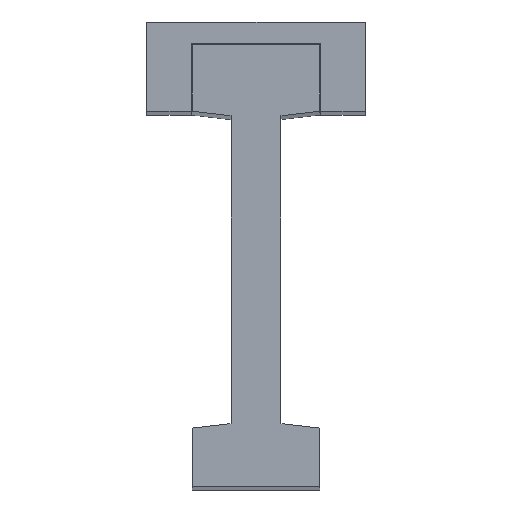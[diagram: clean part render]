
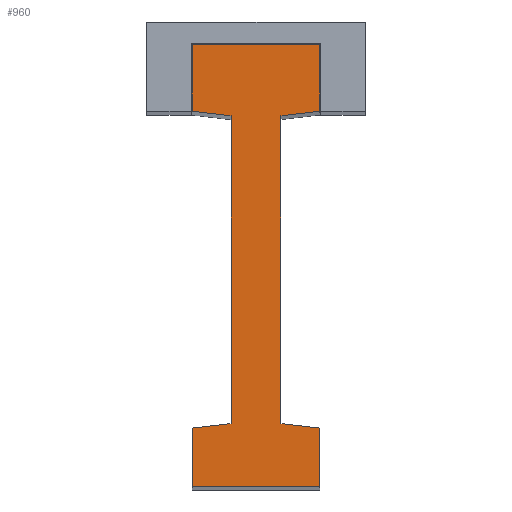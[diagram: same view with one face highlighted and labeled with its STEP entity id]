
A CAD part, top view. The second image highlights one B-rep face of the part: STEP entity #960.
In plain terms, the highlighted planar face has unit normal (0, 0, 1).
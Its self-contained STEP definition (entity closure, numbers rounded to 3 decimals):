
#27 = DIRECTION ( 'NONE',  ( -1., 0., 0. ) ) ;
#90 = CARTESIAN_POINT ( 'NONE',  ( 66.6, 231.204, 785.517 ) ) ;
#154 = VECTOR ( 'NONE', #2825, 1000. ) ;
#358 = AXIS2_PLACEMENT_3D ( 'NONE', #4140, #664, #2979 ) ;
#391 = ORIENTED_EDGE ( 'NONE', *, *, #488, .T. ) ;
#488 = EDGE_CURVE ( 'NONE', #4231, #2779, #1883, .T. ) ;
#513 = ORIENTED_EDGE ( 'NONE', *, *, #2667, .T. ) ;
#567 = VERTEX_POINT ( 'NONE', #1797 ) ;
#601 = EDGE_CURVE ( 'NONE', #3516, #4248, #1031, .T. ) ;
#603 = CARTESIAN_POINT ( 'NONE',  ( 66.6, 298.704, 785.517 ) ) ;
#664 = DIRECTION ( 'NONE',  ( 0., 0., 1. ) ) ;
#690 = DIRECTION ( 'NONE',  ( 0., -1., 0. ) ) ;
#691 = CARTESIAN_POINT ( 'NONE',  ( 57.95, 316.204, 785.517 ) ) ;
#720 = CARTESIAN_POINT ( 'NONE',  ( 86.45, 316.204, 785.517 ) ) ;
#846 = DIRECTION ( 'NONE',  ( -0.993, -0.115, 0. ) ) ;
#869 = LINE ( 'NONE', #3902, #2552 ) ;
#914 = LINE ( 'NONE', #4031, #2315 ) ;
#932 = VERTEX_POINT ( 'NONE', #3504 ) ;
#947 = CARTESIAN_POINT ( 'NONE',  ( 57.95, 301.204, 785.517 ) ) ;
#960 = ADVANCED_FACE ( 'NONE', ( #2657 ), #1831, .T. ) ;
#964 = VERTEX_POINT ( 'NONE', #691 ) ;
#1031 = LINE ( 'NONE', #2584, #1639 ) ;
#1049 = CARTESIAN_POINT ( 'NONE',  ( 57.95, 316.204, 785.517 ) ) ;
#1164 = VECTOR ( 'NONE', #1677, 1000. ) ;
#1206 = ORIENTED_EDGE ( 'NONE', *, *, #601, .T. ) ;
#1221 = LINE ( 'NONE', #1979, #154 ) ;
#1225 = LINE ( 'NONE', #4391, #1164 ) ;
#1277 = VECTOR ( 'NONE', #4955, 1000. ) ;
#1344 = LINE ( 'NONE', #603, #3107 ) ;
#1581 = CARTESIAN_POINT ( 'NONE',  ( 86.45, 217.204, 785.517 ) ) ;
#1639 = VECTOR ( 'NONE', #2101, 1000. ) ;
#1677 = DIRECTION ( 'NONE',  ( 0.993, 0.115, 0. ) ) ;
#1725 = ORIENTED_EDGE ( 'NONE', *, *, #1808, .T. ) ;
#1797 = CARTESIAN_POINT ( 'NONE',  ( 86.45, 230.204, 785.517 ) ) ;
#1808 = EDGE_CURVE ( 'NONE', #4394, #4588, #3986, .T. ) ;
#1831 = PLANE ( 'NONE',  #358 ) ;
#1880 = CARTESIAN_POINT ( 'NONE',  ( 86.45, 301.204, 785.517 ) ) ;
#1883 = LINE ( 'NONE', #3077, #1277 ) ;
#1891 = VECTOR ( 'NONE', #27, 1000. ) ;
#1979 = CARTESIAN_POINT ( 'NONE',  ( 57.95, 301.204, 785.517 ) ) ;
#1998 = ORIENTED_EDGE ( 'NONE', *, *, #4117, .F. ) ;
#2004 = VERTEX_POINT ( 'NONE', #4019 ) ;
#2101 = DIRECTION ( 'NONE',  ( 0., 1., 0. ) ) ;
#2148 = VECTOR ( 'NONE', #4294, 1000. ) ;
#2171 = ORIENTED_EDGE ( 'NONE', *, *, #3406, .T. ) ;
#2180 = CARTESIAN_POINT ( 'NONE',  ( 57.95, 217.204, 785.517 ) ) ;
#2315 = VECTOR ( 'NONE', #3956, 1000. ) ;
#2332 = CARTESIAN_POINT ( 'NONE',  ( 86.45, 217.204, 785.517 ) ) ;
#2373 = LINE ( 'NONE', #2699, #1891 ) ;
#2436 = ORIENTED_EDGE ( 'NONE', *, *, #3490, .T. ) ;
#2529 = CARTESIAN_POINT ( 'NONE',  ( 66.6, 300.204, 785.517 ) ) ;
#2541 = EDGE_CURVE ( 'NONE', #3331, #4394, #1344, .T. ) ;
#2552 = VECTOR ( 'NONE', #3415, 1000. ) ;
#2584 = CARTESIAN_POINT ( 'NONE',  ( 86.45, 301.204, 785.517 ) ) ;
#2657 = FACE_OUTER_BOUND ( 'NONE', #4841, .T. ) ;
#2667 = EDGE_CURVE ( 'NONE', #964, #4821, #4524, .T. ) ;
#2699 = CARTESIAN_POINT ( 'NONE',  ( 86.45, 316.204, 785.517 ) ) ;
#2714 = ORIENTED_EDGE ( 'NONE', *, *, #3656, .T. ) ;
#2733 = LINE ( 'NONE', #2332, #2148 ) ;
#2764 = ORIENTED_EDGE ( 'NONE', *, *, #4806, .T. ) ;
#2779 = VERTEX_POINT ( 'NONE', #1581 ) ;
#2825 = DIRECTION ( 'NONE',  ( -0.993, 0.115, 0. ) ) ;
#2884 = CARTESIAN_POINT ( 'NONE',  ( 66.6, 231.204, 785.517 ) ) ;
#2932 = LINE ( 'NONE', #3742, #3333 ) ;
#2975 = ORIENTED_EDGE ( 'NONE', *, *, #4673, .T. ) ;
#2979 = DIRECTION ( 'NONE',  ( 1., 0., 0. ) ) ;
#3077 = CARTESIAN_POINT ( 'NONE',  ( 57.95, 217.204, 785.517 ) ) ;
#3107 = VECTOR ( 'NONE', #4148, 1000. ) ;
#3186 = VECTOR ( 'NONE', #4446, 1000. ) ;
#3280 = VECTOR ( 'NONE', #846, 1000. ) ;
#3290 = CARTESIAN_POINT ( 'NONE',  ( 57.95, 230.204, 785.517 ) ) ;
#3331 = VERTEX_POINT ( 'NONE', #2529 ) ;
#3333 = VECTOR ( 'NONE', #690, 1000. ) ;
#3406 = EDGE_CURVE ( 'NONE', #4588, #4231, #2932, .T. ) ;
#3415 = DIRECTION ( 'NONE',  ( -0.993, 0.115, 0. ) ) ;
#3475 = EDGE_CURVE ( 'NONE', #567, #932, #869, .T. ) ;
#3490 = EDGE_CURVE ( 'NONE', #2779, #567, #2733, .T. ) ;
#3504 = CARTESIAN_POINT ( 'NONE',  ( 77.8, 231.204, 785.517 ) ) ;
#3516 = VERTEX_POINT ( 'NONE', #1880 ) ;
#3656 = EDGE_CURVE ( 'NONE', #932, #2004, #914, .T. ) ;
#3742 = CARTESIAN_POINT ( 'NONE',  ( 57.95, 230.204, 785.517 ) ) ;
#3902 = CARTESIAN_POINT ( 'NONE',  ( 86.45, 230.204, 785.517 ) ) ;
#3956 = DIRECTION ( 'NONE',  ( 0., 1., 0. ) ) ;
#3986 = LINE ( 'NONE', #90, #3280 ) ;
#4019 = CARTESIAN_POINT ( 'NONE',  ( 77.8, 300.204, 785.517 ) ) ;
#4031 = CARTESIAN_POINT ( 'NONE',  ( 77.8, 231.204, 785.517 ) ) ;
#4117 = EDGE_CURVE ( 'NONE', #3331, #4821, #1221, .T. ) ;
#4140 = CARTESIAN_POINT ( 'NONE',  ( 57.95, 217.204, 785.517 ) ) ;
#4148 = DIRECTION ( 'NONE',  ( 0., -1., 0. ) ) ;
#4177 = ORIENTED_EDGE ( 'NONE', *, *, #2541, .T. ) ;
#4231 = VERTEX_POINT ( 'NONE', #2180 ) ;
#4248 = VERTEX_POINT ( 'NONE', #720 ) ;
#4294 = DIRECTION ( 'NONE',  ( 0., 1., 0. ) ) ;
#4325 = ORIENTED_EDGE ( 'NONE', *, *, #3475, .T. ) ;
#4391 = CARTESIAN_POINT ( 'NONE',  ( 86.45, 301.204, 785.517 ) ) ;
#4394 = VERTEX_POINT ( 'NONE', #2884 ) ;
#4446 = DIRECTION ( 'NONE',  ( 0., -1., 0. ) ) ;
#4524 = LINE ( 'NONE', #1049, #3186 ) ;
#4588 = VERTEX_POINT ( 'NONE', #3290 ) ;
#4673 = EDGE_CURVE ( 'NONE', #4248, #964, #2373, .T. ) ;
#4806 = EDGE_CURVE ( 'NONE', #2004, #3516, #1225, .T. ) ;
#4821 = VERTEX_POINT ( 'NONE', #947 ) ;
#4841 = EDGE_LOOP ( 'NONE', ( #513, #1998, #4177, #1725, #2171, #391, #2436, #4325, #2714, #2764, #1206, #2975 ) ) ;
#4955 = DIRECTION ( 'NONE',  ( 1., 0., 0. ) ) ;
